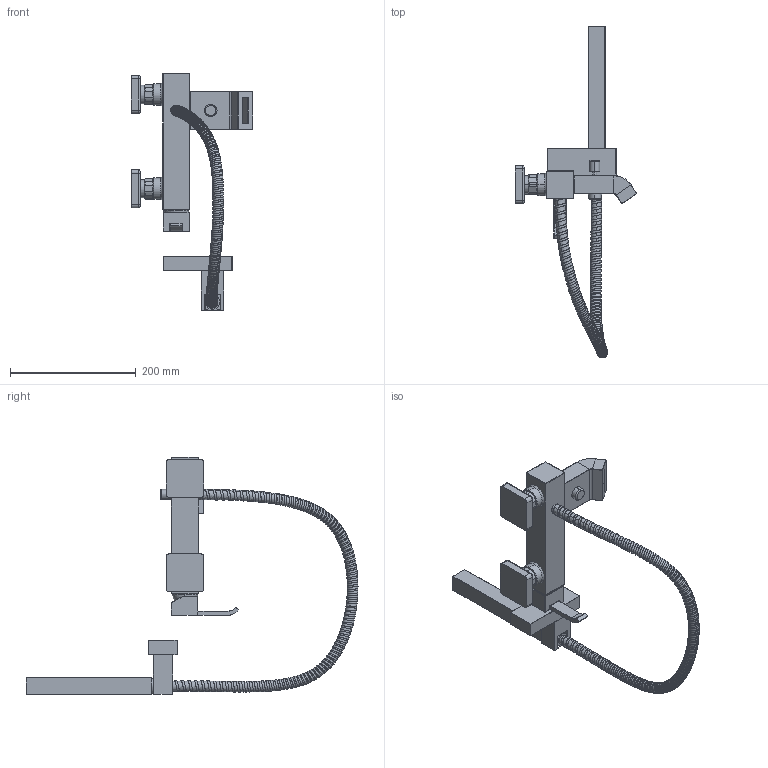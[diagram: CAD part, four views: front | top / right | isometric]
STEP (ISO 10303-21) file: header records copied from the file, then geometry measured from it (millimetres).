
FILE_DESCRIPTION (( 'STEP AP203' ), '1' );
FILE_NAME ('19CR105KM_鼁闉罻_栺樖.STEP', '2020-04-12T16:18:02', ( '' ), ( '' ), 'SwSTEP 2.0', 'SolidWorks 2019', '' );
FILE_SCHEMA (( 'CONFIG_CONTROL_DESIGN' ));
Length unit declared in the file: millimetre
Products named in the file (4): 19CR105KM_äóø; 19CR105KM_鼁闉罻_栺樖; 19CR105KM; 19CR105KM_øëàíã
Assembly tree (3 placements, depth 2):
  19CR105KM_鼁闉罻_栺樖
    19CR105KM
    19CR105KM_äóø
    19CR105KM_øëàíã
Bounding box: 193.57 x 527.77 x 377.16 mm (x, y, z)
Volume: 1326833.1 mm3; surface area: 206529 mm2
Topology: 10 solids, 10 shells, 785 faces, 1935 edges, 1185 vertices
Faces by surface type: plane 303, bspline 206, cylinder 164, torus 50, sphere 46, cone 16
Entity records: 167118 total; most frequent: CARTESIAN_POINT 150282, ORIENTED_EDGE 3790, DIRECTION 2807, EDGE_CURVE 1895, VERTEX_POINT 1181, AXIS2_PLACEMENT_3D 979, VECTOR 849, LINE 849
